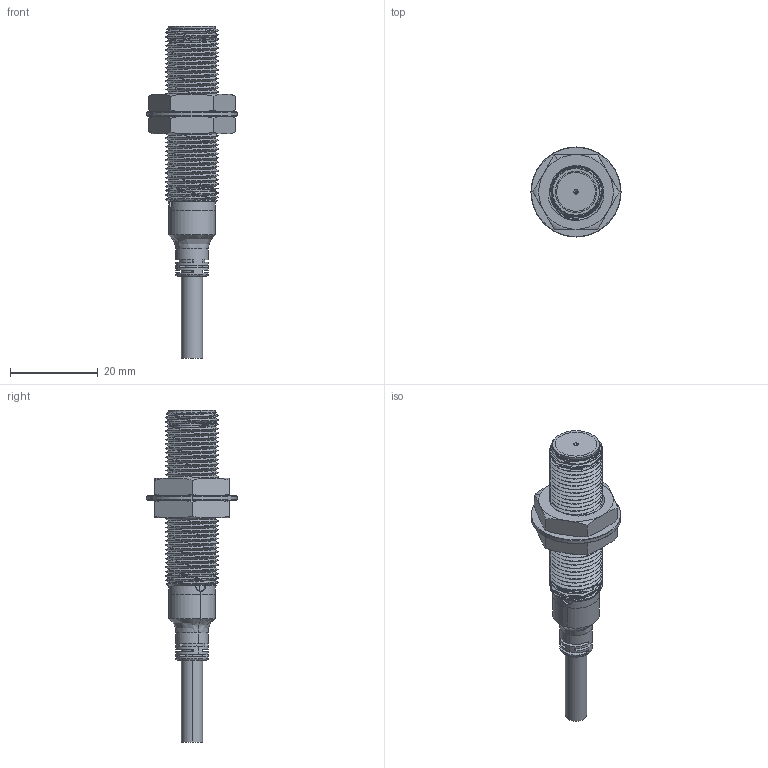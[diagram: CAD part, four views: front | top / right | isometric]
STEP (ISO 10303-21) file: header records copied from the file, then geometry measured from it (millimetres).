
FILE_DESCRIPTION (( 'STEP AP214' ), '1' );
FILE_NAME ('SN12Y-B-K40.STEP', '2025-08-20T10:31:11', ( 'Windows User' ), ( 'P R C' ), 'SwSTEP 2.0', 'SolidWorks 2023', '' );
FILE_SCHEMA (( 'AUTOMOTIVE_DESIGN' ));
Length unit declared in the file: millimetre
Products named in the file (9): M12螺丝_2; 导线_2; M12垫片_2; SN12Y包胶结构; SN12Y-埋入式(2); 金属_2; M12 新工艺尾塞_2; SN12Y-B-K40; 埋入前塞_2
Assembly tree (9 placements, depth 3):
  SN12Y-B-K40
    SN12Y-埋入式(2)
      金属_2
      M12 新工艺尾塞_2
      导线_2
      埋入前塞_2
      M12螺丝_2  x2
      M12垫片_2
    SN12Y包胶结构
Bounding box: 20.5 x 20.5 x 75.56 mm (x, y, z)
Volume: 6743.6 mm3; surface area: 8031.5 mm2
Topology: 9 solids, 9 shells, 427 faces, 1086 edges, 694 vertices
Faces by surface type: cylinder 198, plane 124, cone 53, torus 32, bspline 20
Entity records: 22478 total; most frequent: CARTESIAN_POINT 13299, ORIENTED_EDGE 2000, DIRECTION 1752, EDGE_CURVE 1000, AXIS2_PLACEMENT_3D 685, VERTEX_POINT 644, EDGE_LOOP 436, ADVANCED_FACE 393
